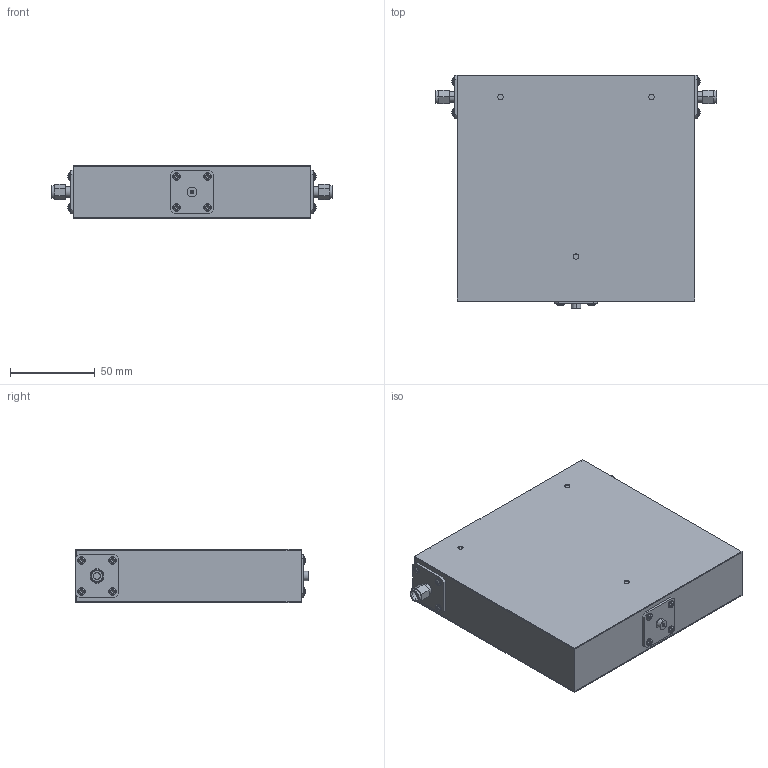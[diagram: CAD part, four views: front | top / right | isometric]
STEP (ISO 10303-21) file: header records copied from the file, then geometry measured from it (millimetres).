
FILE_DESCRIPTION (( 'STEP AP214' ), '1' );
FILE_NAME ('D3I0501-3 5.5x5.23x1.25 MM.step', '2021-12-01T20:55:46', ( '' ), ( '' ), 'SwSTEP 2.0', 'SolidWorks 2016', '' );
FILE_SCHEMA (( 'AUTOMOTIVE_DESIGN' ));
Length unit declared in the file: inch
Products named in the file (6): pan cross head_ai_CR-PHMS 0.086-56x0.125x0.125-N; D3I0501 5.5x5.23x1.20; 1 inch; Delta SMA-Male 1 inch; D3I0501-3 5.5x5.23x1.25 MM; D3I0501 5.5 x 5.23 x 1.25
Assembly tree (17 placements, depth 2):
  D3I0501-3 5.5x5.23x1.25 MM
    D3I0501 5.5 x 5.23 x 1.25
    D3I0501 5.5x5.23x1.20
    pan cross head_ai_CR-PHMS 0.086-56x0.125x0.125-N  x12
    Delta SMA-Male 1 inch  x2
    1 inch
Bounding box: 165.46 x 137.29 x 31.75 mm (x, y, z)
Volume: 592975.1 mm3; surface area: 142912.3 mm2
Topology: 17 solids, 17 shells, 430 faces, 980 edges, 604 vertices
Faces by surface type: plane 246, cylinder 118, torus 38, sphere 24, cone 4
Entity records: 4284 total; most frequent: DIRECTION 774, CARTESIAN_POINT 668, ORIENTED_EDGE 632, EDGE_CURVE 316, AXIS2_PLACEMENT_3D 308, VERTEX_POINT 202, EDGE_LOOP 168, LINE 158
